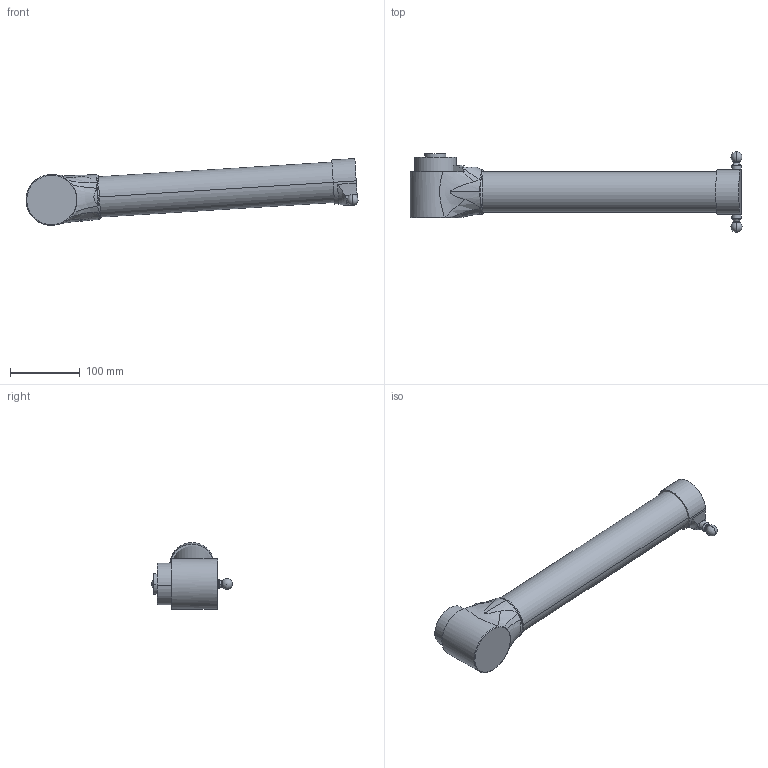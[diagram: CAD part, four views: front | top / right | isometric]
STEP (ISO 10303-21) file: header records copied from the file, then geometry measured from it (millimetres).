
FILE_DESCRIPTION (( 'STEP AP214' ), '1' );
FILE_NAME ('IRB360_X-1600-STD-4D_rev04_UA1_CAD.step', '2025-01-27T14:53:34', ( '' ), ( '' ), 'SwSTEP 2.0', 'SolidWorks 2022', '' );
FILE_SCHEMA (( 'AUTOMOTIVE_DESIGN' ));
Length unit declared in the file: millimetre
Products named in the file (1): IRB360_X-1600-STD-4D_rev04_UA1_CAD
Bounding box: 476.43 x 115.88 x 95.82 mm (x, y, z)
Volume: 1558472.1 mm3; surface area: 133315 mm2
Topology: 5 solids, 5 shells, 98 faces, 229 edges, 141 vertices
Faces by surface type: cylinder 21, plane 21, bspline 19, torus 17, cone 16, sphere 4
Entity records: 4477 total; most frequent: CARTESIAN_POINT 2118, DIRECTION 451, ORIENTED_EDGE 438, EDGE_CURVE 219, AXIS2_PLACEMENT_3D 201, VERTEX_POINT 135, CIRCLE 121, EDGE_LOOP 102
